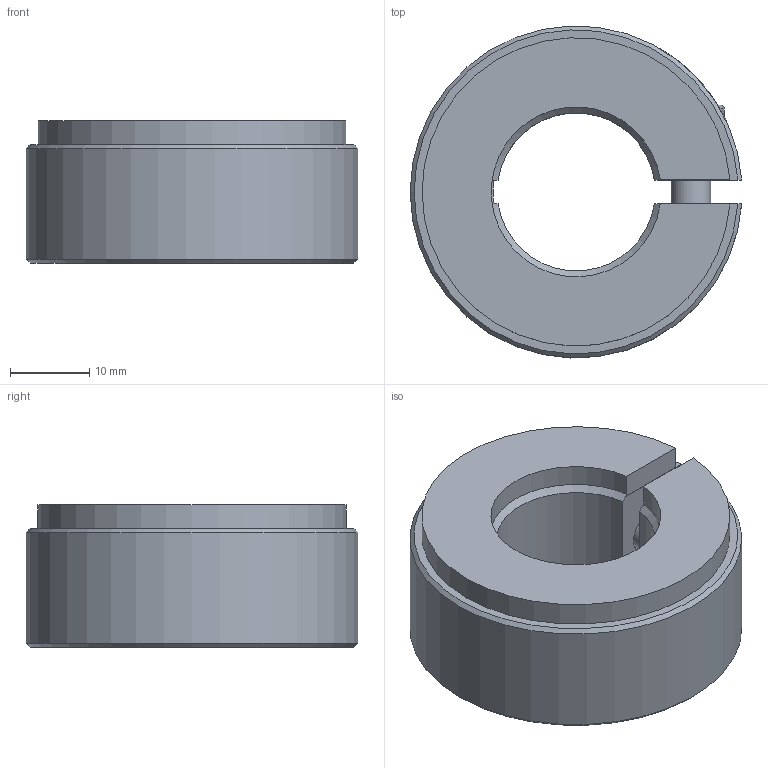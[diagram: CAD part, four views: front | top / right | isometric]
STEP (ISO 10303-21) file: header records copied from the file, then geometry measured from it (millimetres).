
FILE_DESCRIPTION( ( 'STEP AP203' ), '1' );
FILE_NAME( 'C:/Temp/Ganter_Step_05_03_2020/data/3_2/gn7062_3/Semi-split Stainless Steel-Set collar GN 7062.3-42-B20-NI.stp', '2020-03-13T05:40:24', ( 'License CC BY-ND 4.0' ), ( 'CADENAS' ), ' ', 'PARTsolutions', ' ' );
FILE_SCHEMA( ( 'CONFIG_CONTROL_DESIGN' ) );
Length unit declared in the file: millimetre
Products named in the file (1): _Semi-split Stainless Steel-Set collar GN 7062.3-42-B20-NI
Bounding box: 41.95 x 41.97 x 18 mm (x, y, z)
Volume: 17418.8 mm3; surface area: 6412.9 mm2
Topology: 1 solids, 1 shells, 36 faces, 89 edges, 59 vertices
Faces by surface type: plane 20, cylinder 10, cone 5, torus 1
Full cylindrical faces by diameter (mm): 5 x1, 5.4 x1, 8.5 x1, 9 x1
Entity records: 1182 total; most frequent: CARTESIAN_POINT 297, DIRECTION 170, ORIENTED_EDGE 168, EDGE_CURVE 84, AXIS2_PLACEMENT_3D 64, VERTEX_POINT 59, EDGE_LOOP 47, LINE 42
